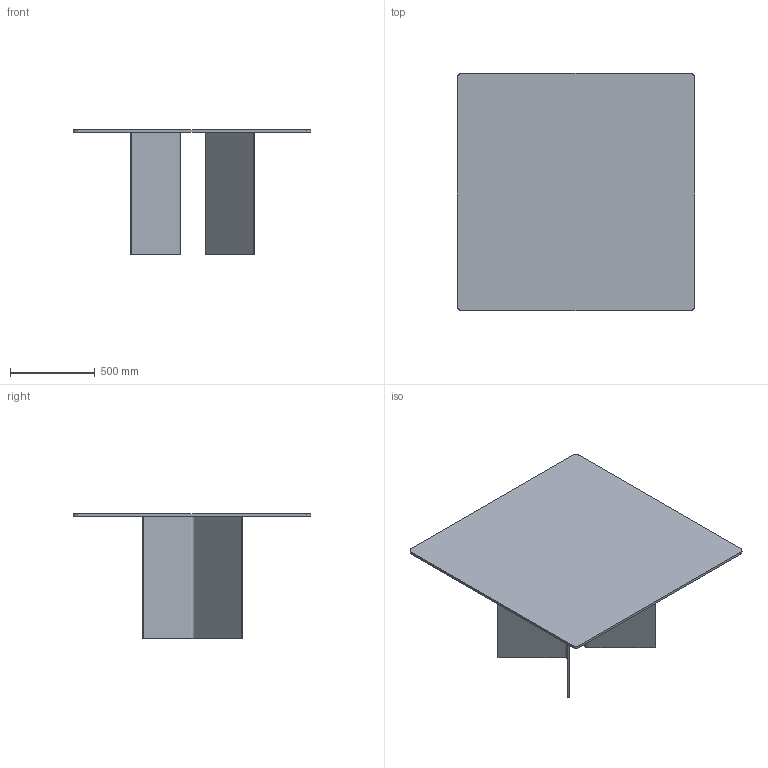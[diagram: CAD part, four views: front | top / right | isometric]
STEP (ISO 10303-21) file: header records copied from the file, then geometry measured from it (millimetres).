
FILE_DESCRIPTION(/* description */ (''),/* implementation_level */ '2;1');
FILE_NAME(/* name */ '216634 - corner 140x140',/* time_stamp */ '2014-07-31T16:10:52+02:00',/* author */ (''),/* organization */ (''),/* preprocessor_version */ 'ST-DEVELOPER v10',/* originating_system */ '',/* authorisation */ '');
FILE_SCHEMA (('CONFIG_CONTROL_DESIGN'));
Length unit declared in the file: millimetre
Products named in the file (1): 1
Bounding box: 1400 x 1400 x 735 mm (x, y, z)
Volume: 44437745.5 mm3; surface area: 6438958.2 mm2
Topology: 3 solids, 3 shells, 24 faces, 54 edges, 36 vertices
Faces by surface type: plane 16, bspline 8
Entity records: 758 total; most frequent: CARTESIAN_POINT 314, ORIENTED_EDGE 108, EDGE_CURVE 54, VERTEX_POINT 36, B_SPLINE_CURVE_WITH_KNOTS 30, ADVANCED_FACE 24, FACE_OUTER_BOUND 24, EDGE_LOOP 24
